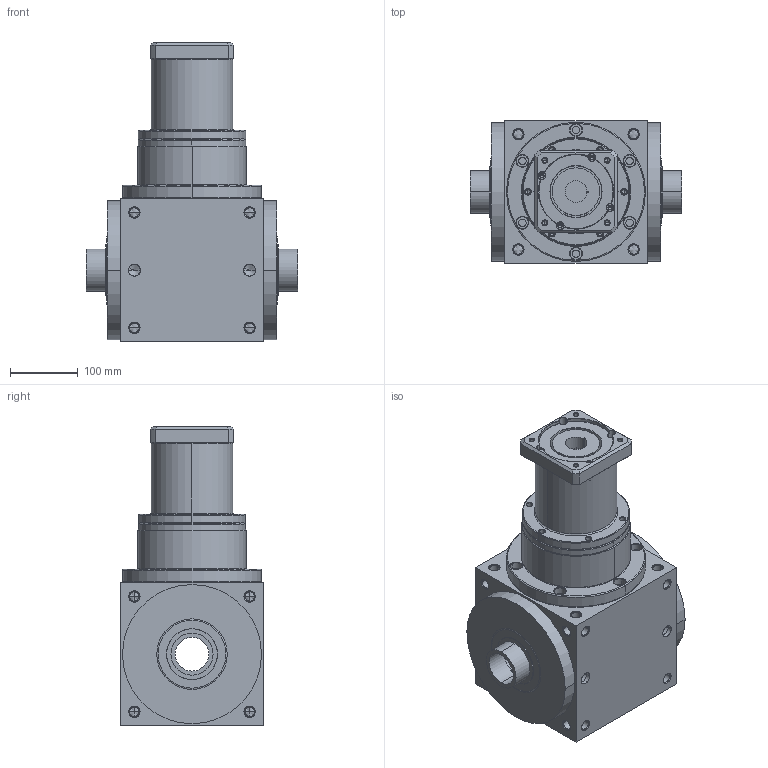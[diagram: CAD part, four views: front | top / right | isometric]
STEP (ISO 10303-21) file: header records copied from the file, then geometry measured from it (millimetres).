
FILE_DESCRIPTION((''),'2;1');
FILE_NAME('AT210FC2-P0405400501_ASM','2009-02-06T',('d00176'),(''),'PRO/ENGINEER BY PARAMETRIC TECHNOLOGY CORPORATION, 2006170','PRO/ENGINEER BY PARAMETRIC TECHNOLOGY CORPORATION, 2006170','');
FILE_SCHEMA(('CONFIG_CONTROL_DESIGN'));
Length unit declared in the file: millimetre
Products named in the file (5): ATFC-HOUSING-2-8; P1801800001; P0226800001; P0405400501; AT210FC2-P0405400501_ASM
Assembly tree (4 placements, depth 2):
  AT210FC2-P0405400501_ASM
    ATFC-HOUSING-2-8
    P1801800001
    P0226800001
    P0405400501
Bounding box: 312 x 210 x 440.5 mm (x, y, z)
Volume: 12467976.1 mm3; surface area: 755186.6 mm2
Topology: 4 solids, 42 shells, 802 faces, 1964 edges, 1158 vertices
Faces by surface type: cylinder 340, cone 282, plane 112, torus 48, bspline 20
Entity records: 24741 total; most frequent: CARTESIAN_POINT 5827, DIRECTION 4244, ORIENTED_EDGE 3608, EDGE_CURVE 1880, AXIS2_PLACEMENT_3D 1771, VERTEX_POINT 1158, CIRCLE 972, EDGE_LOOP 948
